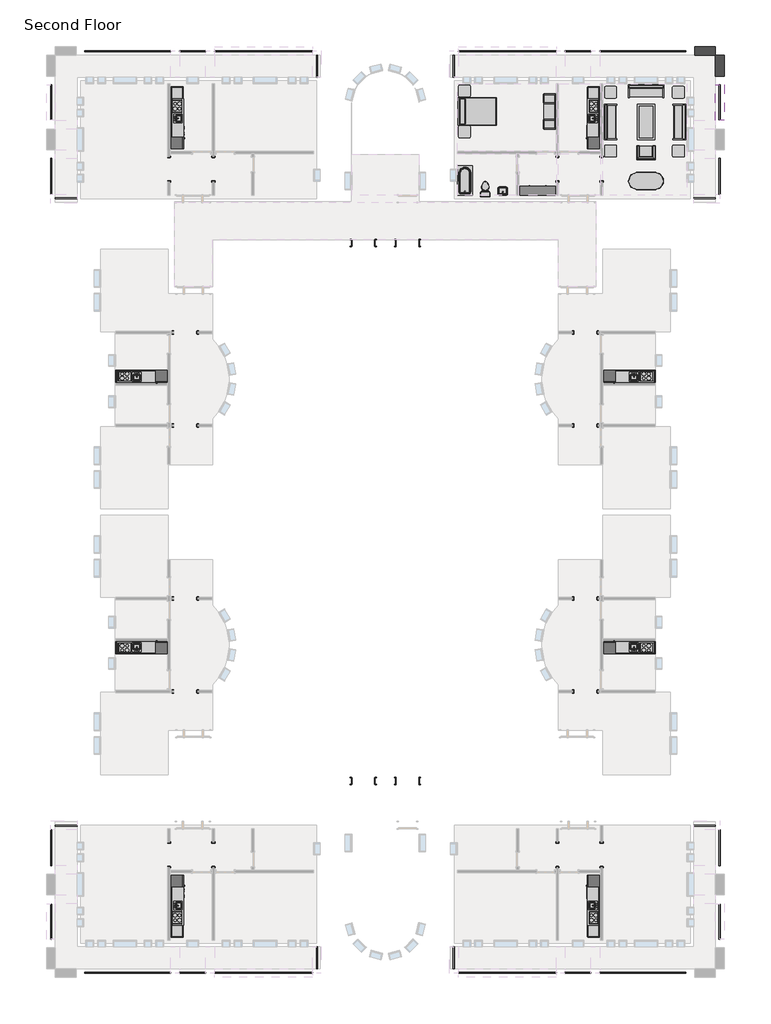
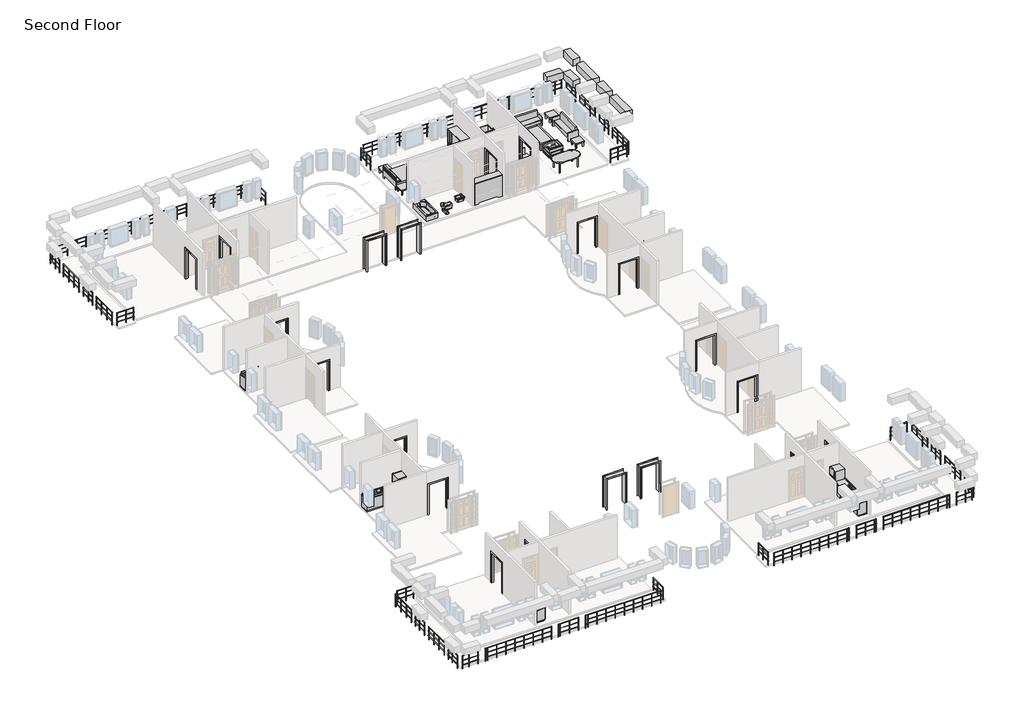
# One storey, part 5 of 5: 40 railings, 28 proxies, 15 furniture elements, 3 beams, 3 flow terminals.
"""IFC4 building model written with IfcOpenShell, lengths in millimetres."""

from ifc_helpers import new_model, si_unit, frame, origin, place, context, project, spatial, polyline, outline, extrude, faceted_brep, transform, mapped, element, save
from components import kitchenette_medium_5_9f73a4de, kitchenette_medium_5_952fb32b, proxy_64a468c4, proxy_b7eaed23, proxy_f44482cc, proxy_c3589814, proxy_d58c73d0, proxy_1659ed5c, flow_terminal_0aeb31e3, toilet_domestic_3d_toilet_domestic_3d_f7549cf7, toilet_domestic_3d_toilet_domestic_3d_183bbd19, tub_rectangular_3d_tub_rectangular_3d_5e45a89b, furniture_096e7f55, chair_corbu_chair_corbu_2764bdef, furniture_7c473f12, furniture_ddc78764, furniture_4ef38d96, furniture_cd93a443, furniture_2c34a4f9, furniture_3a588284, furniture_1befe2a2, handrail_rectangular_4972241b, handrail_rectangular_1381a444, handrail_rectangular_01eef90d, handrail_rectangular_13a1ee30, handrail_rectangular_03016c17, handrail_rectangular_3ccce273, handrail_rectangular_54a3796f, handrail_rectangular_59770213, handrail_rectangular_8efd4f22, handrail_rectangular_e9e78f14, handrail_rectangular_87f704f7, handrail_rectangular_8714f778, handrail_rectangular_c13e586d, handrail_rectangular_976a4a22, handrail_rectangular_e26642b2, handrail_rectangular_a6494b9e, handrail_rectangular_cf185419, handrail_rectangular_509b275a, handrail_rectangular_1468f00f, handrail_rectangular_0c64ad7f, handrail_rectangular_2f5b2840, handrail_rectangular_16bb1ca9, handrail_rectangular_52f2a290, handrail_rectangular_e3f0a00c, handrail_rectangular_5aa2e3ec, handrail_rectangular_7468691e, handrail_rectangular_8720fce0, handrail_rectangular_1f0af88b, handrail_rectangular_be64c713, handrail_rectangular_0f8d92d8, handrail_rectangular_bd103520, handrail_rectangular_141b720c, handrail_rectangular_5c72b83f, handrail_rectangular_79dd763a, handrail_rectangular_53114f2b, handrail_rectangular_2b0f6e2a, handrail_rectangular_dd930bd4, handrail_rectangular_f98c5335, handrail_rectangular_11d6e5c2, handrail_rectangular_5028e874

model = new_model("IFC4")

# Units and contexts
model_context = context("Model", 3, world=origin())
ifc_project = project(units=[si_unit("LENGTHUNIT", "METRE", prefix="MILLI")], contexts=[model_context])

# Site, building, storey
site = spatial("IfcSite", under=ifc_project)
building = spatial("IfcBuilding", under=site)
storey = spatial("IfcBuildingStorey", under=building, Name="Second Floor", Elevation=3048.0)

# Beams
placement = place(None, origin())
element("IfcBeam", 1, ObjectType="Concrete-Rectangular Beam : 18 x 18", at=placement, inside=storey, context=model_context, shape_type="SweptSolid", body=[
    extrude(outline(polyline([(1027.1410437, 11741.6316867), (1027.1410437, 12198.8316867), (2093.9410437, 12198.8316867), (2093.9410437, 11741.6316867), (1027.1410437, 11741.6316867)])), frame((0.0, 0.0, 4114.8), z_axis=(0.0, 0.0, 1.0), x_axis=(1.0, 0.0, 0.0)), (0.0, 0.0, 1.0), 457.2),
])
element("IfcBeam", 2, ObjectType="Concrete-Rectangular Beam : 18 x 18", at=placement, inside=storey, context=model_context, shape_type="SweptSolid", body=[
    extrude(outline(polyline([(2551.1410437, 10674.8316867), (2093.9410437, 10674.8316867), (2093.9410437, 11741.6316867), (2551.1410437, 11741.6316867), (2551.1410437, 10674.8316867)])), frame((0.0, 0.0, 4114.8), z_axis=(0.0, 0.0, 1.0), x_axis=(1.0, 0.0, 0.0)), (0.0, 0.0, 1.0), 457.2),
])
element("IfcBeam", 3, ObjectType="Concrete-Rectangular Beam : 18 x 18", at=placement, inside=storey, context=model_context, shape_type="Brep", body=[
    faceted_brep([(2093.9410437, 4578.8316867, 6096.0), (2322.5410437, 4578.8316867, 6096.0), (2551.1410437, 4578.8316867, 6096.0), (2551.1410437, 6407.6316867, 6096.0), (2093.9410437, 6407.6316867, 6096.0), (2093.9410437, 4578.8316867, 5638.8), (2093.9410437, 6407.6316867, 5638.8), (2551.1410437, 4578.8316867, 5638.8), (2322.5410437, 4578.8316867, 5638.8), (2551.1410437, 6407.6316867, 5638.8)], [[[0, 1, 2, 3, 4]], [[5, 0, 4, 6]], [[7, 8, 5, 6, 9]], [[2, 7, 9, 3]], [[2, 1, 0, 5, 8, 7]], [[4, 3, 9, 6]]]),
    faceted_brep([(2551.1410437, 11741.6316867, 6096.0), (2551.1410437, 11741.6316867, 5638.8), (2093.9410437, 11741.6316867, 5638.8), (2093.9410437, 11741.6316867, 6096.0), (2551.1410437, 10674.8316867, 6096.0), (2093.9410437, 10674.8316867, 6096.0), (2093.9410437, 10674.8316867, 5638.8), (2551.1410437, 10674.8316867, 5638.8)], [[[0, 1, 2, 3]], [[4, 5, 6, 7]], [[0, 3, 5, 4]], [[3, 2, 6, 5]], [[2, 1, 7, 6]], [[1, 0, 4, 7]]]),
    faceted_brep([(2093.9410437, 10217.6316867, 6096.0), (2551.1410437, 10217.6316867, 6096.0), (2551.1410437, 10217.6316867, 5638.8), (2093.9410437, 10217.6316867, 5638.8), (2551.1410437, 8388.8316867, 6096.0), (2093.9410437, 8388.8316867, 6096.0), (2093.9410437, 8388.8316867, 5638.8), (2551.1410437, 8388.8316867, 5638.8)], [[[0, 1, 2, 3]], [[4, 5, 6, 7]], [[1, 0, 5, 4]], [[0, 3, 6, 5]], [[3, 2, 7, 6]], [[2, 1, 4, 7]]]),
    faceted_brep([(2551.1410437, 6864.8316867, 6096.0), (2093.9410437, 6864.8316867, 6096.0), (2093.9410437, 6864.8316867, 5638.8), (2551.1410437, 6864.8316867, 5638.8), (2551.1410437, 7931.6316867, 6096.0), (2093.9410437, 7931.6316867, 6096.0), (2093.9410437, 7931.6316867, 5638.8), (2551.1410437, 7931.6316867, 5638.8)], [[[0, 1, 2, 3]], [[1, 0, 4, 5]], [[2, 1, 5, 6]], [[3, 2, 6, 7]], [[0, 3, 7, 4]], [[5, 4, 7, 6]]]),
])

# Proxies
kitchenette_medium_5_shape = kitchenette_medium_5_9f73a4de(model_context)
element("IfcBuildingElementProxy", 4, Name="Kitchenette - Medium : 5'", ObjectType="Kitchenette - Medium : 5'", at=placement, inside=storey, context=model_context, shape_type="MappedRepresentation", body=[
    mapped(kitchenette_medium_5_shape, transform((-28112.6966612, -4494.4827414, 3048.0), x_axis=(1.0, 0.0, 0.0), y_axis=(0.0, 1.0, 0.0), z_axis=(0.0, 0.0, 1.0))),
])
element("IfcBuildingElementProxy", 5, Name="Kitchenette - Medium : 5'", ObjectType="Kitchenette - Medium : 5'", at=placement, inside=storey, context=model_context, shape_type="MappedRepresentation", body=[
    mapped(kitchenette_medium_5_shape, transform((-1757.6462514, -19113.8538852, 3048.0), x_axis=(-1.0, 0.0, 0.0), y_axis=(0.0, -1.0, 0.0), z_axis=(0.0, 0.0, 1.0))),
])
kitchenette_medium_5_2_shape = kitchenette_medium_5_952fb32b(model_context)
element("IfcBuildingElementProxy", 6, Name="Kitchenette - Medium : 5'", ObjectType="Kitchenette - Medium : 5'", at=placement, inside=storey, context=model_context, shape_type="MappedRepresentation", body=[
    mapped(kitchenette_medium_5_2_shape, transform((-1757.6462514, -4494.4827414, 3048.0), x_axis=(-1.0, 0.0, 0.0), y_axis=(0.0, -1.0, 0.0), z_axis=(0.0, 0.0, 1.0))),
])
element("IfcBuildingElementProxy", 7, Name="Kitchenette - Medium : 5'", ObjectType="Kitchenette - Medium : 5'", at=placement, inside=storey, context=model_context, shape_type="MappedRepresentation", body=[
    mapped(kitchenette_medium_5_2_shape, transform((-28112.6966612, -19113.8538852, 3048.0), x_axis=(1.0, 0.0, 0.0), y_axis=(0.0, 1.0, 0.0), z_axis=(0.0, 0.0, 1.0))),
])
proxy_shape = proxy_64a468c4(model_context)
element("IfcBuildingElementProxy", 8, Name="Kitchenette - Medium : 8'6\"", ObjectType="Kitchenette - Medium : 8'6\"", at=placement, inside=storey, context=model_context, shape_type="MappedRepresentation", body=[
    mapped(proxy_shape, transform((-3887.7589563, 8837.7956433, 3048.0), x_axis=(0.0, -1.0, 0.0), y_axis=(1.0, 0.0, 0.0), z_axis=(0.0, 0.0, 1.0))),
])
element("IfcBuildingElementProxy", 9, Name="Kitchenette - Medium : 8'6\"", ObjectType="Kitchenette - Medium : 8'6\"", at=placement, inside=storey, context=model_context, shape_type="MappedRepresentation", body=[
    mapped(proxy_shape, transform((-25982.5839563, -32446.1322699, 3048.0), x_axis=(0.0, 1.0, 0.0), y_axis=(-1.0, 0.0, 0.0), z_axis=(0.0, 0.0, 1.0))),
])
proxy_2_shape = proxy_b7eaed23(model_context)
element("IfcBuildingElementProxy", 10, Name="Kitchenette - Medium : 8'6\"", ObjectType="Kitchenette - Medium : 8'6\"", at=placement, inside=storey, context=model_context, shape_type="MappedRepresentation", body=[
    mapped(proxy_2_shape, transform((-25982.5839563, 8837.7956433, 3048.0), x_axis=(0.0, -1.0, 0.0), y_axis=(1.0, 0.0, 0.0), z_axis=(0.0, 0.0, 1.0))),
])
element("IfcBuildingElementProxy", 11, Name="Kitchenette - Medium : 8'6\"", ObjectType="Kitchenette - Medium : 8'6\"", at=placement, inside=storey, context=model_context, shape_type="MappedRepresentation", body=[
    mapped(proxy_2_shape, transform((-3887.7589563, -32446.1322699, 3048.0), x_axis=(0.0, 1.0, 0.0), y_axis=(-1.0, 0.0, 0.0), z_axis=(0.0, 0.0, 1.0))),
])
proxy_3_shape = proxy_f44482cc(model_context)
element("IfcBuildingElementProxy", 12, Name="Opening-Cased : 48\" x 84\"", ObjectType="Opening-Cased : 48\" x 84\"", at=placement, inside=storey, context=model_context, shape_type="MappedRepresentation", body=[
    mapped(proxy_3_shape, transform((-3773.4589563, 5882.4203434, 3048.0), x_axis=(0.0, 1.0, 0.0), y_axis=(-1.0, 0.0, 0.0), z_axis=(0.0, 0.0, 1.0))),
])
element("IfcBuildingElementProxy", 13, Name="Opening-Cased : 48\" x 84\"", ObjectType="Opening-Cased : 48\" x 84\"", at=placement, inside=storey, context=model_context, shape_type="MappedRepresentation", body=[
    mapped(proxy_3_shape, transform((-6059.4589563, 5866.04303, 3048.0), x_axis=(0.0, -1.0, 0.0), y_axis=(1.0, 0.0, 0.0), z_axis=(0.0, 0.0, 1.0))),
])
element("IfcBuildingElementProxy", 14, Name="Opening-Cased : 48\" x 84\"", ObjectType="Opening-Cased : 48\" x 84\"", at=placement, inside=storey, context=model_context, shape_type="MappedRepresentation", body=[
    mapped(proxy_3_shape, transform((-25250.4952996, -7344.8808133, 3048.0), x_axis=(1.0, 0.0, 0.0), y_axis=(0.0, 1.0, 0.0), z_axis=(0.0, 0.0, 1.0))),
])
element("IfcBuildingElementProxy", 15, Name="Opening-Cased : 48\" x 84\"", ObjectType="Opening-Cased : 48\" x 84\"", at=placement, inside=storey, context=model_context, shape_type="MappedRepresentation", body=[
    mapped(proxy_3_shape, transform((-25266.872613, -2547.4558133, 3048.0), x_axis=(-1.0, 0.0, 0.0), y_axis=(0.0, -1.0, 0.0), z_axis=(0.0, 0.0, 1.0))),
])
element("IfcBuildingElementProxy", 16, Name="Opening-Cased : 48\" x 84\"", ObjectType="Opening-Cased : 48\" x 84\"", at=placement, inside=storey, context=model_context, shape_type="MappedRepresentation", body=[
    mapped(proxy_3_shape, transform((-4619.847613, -16263.4558133, 3048.0), x_axis=(-1.0, 0.0, 0.0), y_axis=(0.0, -1.0, 0.0), z_axis=(0.0, 0.0, 1.0))),
])
element("IfcBuildingElementProxy", 17, Name="Opening-Cased : 48\" x 84\"", ObjectType="Opening-Cased : 48\" x 84\"", at=placement, inside=storey, context=model_context, shape_type="MappedRepresentation", body=[
    mapped(proxy_3_shape, transform((-4603.4702996, -21060.8808133, 3048.0), x_axis=(1.0, 0.0, 0.0), y_axis=(0.0, 1.0, 0.0), z_axis=(0.0, 0.0, 1.0))),
])
element("IfcBuildingElementProxy", 18, Name="Opening-Cased : 48\" x 84\"", ObjectType="Opening-Cased : 48\" x 84\"", at=placement, inside=storey, context=model_context, shape_type="MappedRepresentation", body=[
    mapped(proxy_3_shape, transform((-26096.8839563, -29490.75697, 3048.0), x_axis=(0.0, -1.0, 0.0), y_axis=(1.0, 0.0, 0.0), z_axis=(0.0, 0.0, 1.0))),
])
element("IfcBuildingElementProxy", 19, Name="Opening-Cased : 48\" x 84\"", ObjectType="Opening-Cased : 48\" x 84\"", at=placement, inside=storey, context=model_context, shape_type="MappedRepresentation", body=[
    mapped(proxy_3_shape, transform((-23810.8839563, -29474.3796566, 3048.0), x_axis=(0.0, 1.0, 0.0), y_axis=(-1.0, 0.0, 0.0), z_axis=(0.0, 0.0, 1.0))),
])
proxy_4_shape = proxy_c3589814(model_context)
element("IfcBuildingElementProxy", 20, Name="Opening-Cased : 48\" x 84\"", ObjectType="Opening-Cased : 48\" x 84\"", at=placement, inside=storey, context=model_context, shape_type="MappedRepresentation", body=[
    mapped(proxy_4_shape, transform((-16086.360113, 2064.2316867, 3048.0), x_axis=(-1.0, 0.0, 0.0), y_axis=(0.0, -1.0, 0.0), z_axis=(0.0, 0.0, 1.0))),
])
element("IfcBuildingElementProxy", 21, Name="Opening-Cased : 48\" x 84\"", ObjectType="Opening-Cased : 48\" x 84\"", at=placement, inside=storey, context=model_context, shape_type="MappedRepresentation", body=[
    mapped(proxy_4_shape, transform((-13800.360113, 2064.2316867, 3048.0), x_axis=(-1.0, 0.0, 0.0), y_axis=(0.0, -1.0, 0.0), z_axis=(0.0, 0.0, 1.0))),
])
proxy_5_shape = proxy_d58c73d0(model_context)
element("IfcBuildingElementProxy", 22, Name="Opening-Cased : 48\" x 84\"", ObjectType="Opening-Cased : 48\" x 84\"", at=placement, inside=storey, context=model_context, shape_type="MappedRepresentation", body=[
    mapped(proxy_5_shape, transform((-4619.847613, -7344.8808133, 3048.0), x_axis=(-1.0, 0.0, 0.0), y_axis=(0.0, -1.0, 0.0), z_axis=(0.0, 0.0, 1.0))),
])
element("IfcBuildingElementProxy", 23, Name="Opening-Cased : 48\" x 84\"", ObjectType="Opening-Cased : 48\" x 84\"", at=placement, inside=storey, context=model_context, shape_type="MappedRepresentation", body=[
    mapped(proxy_5_shape, transform((-4603.4702996, -2547.4558133, 3048.0), x_axis=(1.0, 0.0, 0.0), y_axis=(0.0, 1.0, 0.0), z_axis=(0.0, 0.0, 1.0))),
])
element("IfcBuildingElementProxy", 24, Name="Opening-Cased : 48\" x 84\"", ObjectType="Opening-Cased : 48\" x 84\"", at=placement, inside=storey, context=model_context, shape_type="MappedRepresentation", body=[
    mapped(proxy_5_shape, transform((-26096.8839563, 5882.4203434, 3048.0), x_axis=(0.0, 1.0, 0.0), y_axis=(-1.0, 0.0, 0.0), z_axis=(0.0, 0.0, 1.0))),
])
element("IfcBuildingElementProxy", 25, Name="Opening-Cased : 48\" x 84\"", ObjectType="Opening-Cased : 48\" x 84\"", at=placement, inside=storey, context=model_context, shape_type="MappedRepresentation", body=[
    mapped(proxy_5_shape, transform((-23810.8839563, 5866.04303, 3048.0), x_axis=(0.0, -1.0, 0.0), y_axis=(1.0, 0.0, 0.0), z_axis=(0.0, 0.0, 1.0))),
])
element("IfcBuildingElementProxy", 26, Name="Opening-Cased : 48\" x 84\"", ObjectType="Opening-Cased : 48\" x 84\"", at=placement, inside=storey, context=model_context, shape_type="MappedRepresentation", body=[
    mapped(proxy_5_shape, transform((-3773.4589563, -29490.75697, 3048.0), x_axis=(0.0, -1.0, 0.0), y_axis=(1.0, 0.0, 0.0), z_axis=(0.0, 0.0, 1.0))),
])
element("IfcBuildingElementProxy", 27, Name="Opening-Cased : 48\" x 84\"", ObjectType="Opening-Cased : 48\" x 84\"", at=placement, inside=storey, context=model_context, shape_type="MappedRepresentation", body=[
    mapped(proxy_5_shape, transform((-6059.4589563, -29474.3796566, 3048.0), x_axis=(0.0, 1.0, 0.0), y_axis=(-1.0, 0.0, 0.0), z_axis=(0.0, 0.0, 1.0))),
])
element("IfcBuildingElementProxy", 28, Name="Opening-Cased : 48\" x 84\"", ObjectType="Opening-Cased : 48\" x 84\"", at=placement, inside=storey, context=model_context, shape_type="MappedRepresentation", body=[
    mapped(proxy_5_shape, transform((-25250.4952996, -16263.4558133, 3048.0), x_axis=(1.0, 0.0, 0.0), y_axis=(0.0, 1.0, 0.0), z_axis=(0.0, 0.0, 1.0))),
])
element("IfcBuildingElementProxy", 29, Name="Opening-Cased : 48\" x 84\"", ObjectType="Opening-Cased : 48\" x 84\"", at=placement, inside=storey, context=model_context, shape_type="MappedRepresentation", body=[
    mapped(proxy_5_shape, transform((-25266.872613, -21060.8808133, 3048.0), x_axis=(-1.0, 0.0, 0.0), y_axis=(0.0, -1.0, 0.0), z_axis=(0.0, 0.0, 1.0))),
])
proxy_6_shape = proxy_1659ed5c(model_context)
element("IfcBuildingElementProxy", 30, Name="Opening-Cased : 48\" x 84\"", ObjectType="Opening-Cased : 48\" x 84\"", at=placement, inside=storey, context=model_context, shape_type="MappedRepresentation", body=[
    mapped(proxy_6_shape, transform((-16086.360113, -25672.5683133, 3048.0), x_axis=(-1.0, 0.0, 0.0), y_axis=(0.0, -1.0, 0.0), z_axis=(0.0, 0.0, 1.0))),
])
element("IfcBuildingElementProxy", 31, Name="Opening-Cased : 48\" x 84\"", ObjectType="Opening-Cased : 48\" x 84\"", at=placement, inside=storey, context=model_context, shape_type="MappedRepresentation", body=[
    mapped(proxy_6_shape, transform((-13800.360113, -25672.5683133, 3048.0), x_axis=(-1.0, 0.0, 0.0), y_axis=(0.0, -1.0, 0.0), z_axis=(0.0, 0.0, 1.0))),
])

# Flow terminals
flow_terminal_shape = flow_terminal_0aeb31e3(model_context)
element("IfcFlowTerminal", 32, ObjectType="Sink Vanity-Square : 24\" x 19\"", at=placement, inside=storey, context=model_context, shape_type="MappedRepresentation", body=[
    mapped(flow_terminal_shape, transform((-8864.7572157, 4706.5895878, 3048.0), x_axis=(-1.0, 0.0, 0.0), y_axis=(0.0, -1.0, 0.0), z_axis=(0.0, 0.0, 1.0))),
])
toilet_domestic_3d_toilet_domestic_3d_shape = toilet_domestic_3d_toilet_domestic_3d_f7549cf7(model_context)
toilet_domestic_3d_toilet_domestic_3d_2_shape = toilet_domestic_3d_toilet_domestic_3d_183bbd19(model_context)
element("IfcFlowTerminal", 33, ObjectType="Toilet-Domestic-3D : Toilet-Domestic-3D", at=placement, inside=storey, context=model_context, shape_type="MappedRepresentation", body=[
    mapped(toilet_domestic_3d_toilet_domestic_3d_shape, transform((-9782.1466587, 4940.866411, 3048.0), x_axis=(-1.0000000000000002, 0.0, 0.0), y_axis=(0.0, -1.0000000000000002, 0.0), z_axis=(0.0, 0.0, 1.0))),
    mapped(toilet_domestic_3d_toilet_domestic_3d_2_shape, transform((-9782.1466587, 4940.866411, 3048.0), x_axis=(-1.0000000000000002, 0.0, 0.0), y_axis=(0.0, -1.0000000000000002, 0.0), z_axis=(0.0, 0.0, 1.0))),
])
tub_rectangular_3d_tub_rectangular_3d_shape = tub_rectangular_3d_tub_rectangular_3d_5e45a89b(model_context)
element("IfcFlowTerminal", 34, ObjectType="Tub-Rectangular-3D : Tub-Rectangular-3D", at=placement, inside=storey, context=model_context, shape_type="MappedRepresentation", body=[
    mapped(tub_rectangular_3d_tub_rectangular_3d_shape, transform((-11393.4589563, 5637.0471554, 3048.0), x_axis=(0.0, 1.0, 0.0), y_axis=(-1.0, 0.0, 0.0), z_axis=(0.0, 0.0, 1.0))),
])

# Furniture
furniture_shape = furniture_096e7f55(model_context)
element("IfcFurniture", 35, ObjectType="Bed-Shaker : Double 56\" x 78\"", at=placement, inside=storey, context=model_context, shape_type="MappedRepresentation", body=[
    mapped(furniture_shape, transform((-11183.1982802, 8871.8755561, 3048.0), x_axis=(0.0, 1.0, 0.0), y_axis=(-1.0, 0.0, 0.0), z_axis=(0.0, 0.0, 1.0))),
])
chair_corbu_chair_corbu_shape = chair_corbu_chair_corbu_2764bdef(model_context)
element("IfcFurniture", 36, ObjectType="Chair-Corbu : Chair-Corbu", at=placement, inside=storey, context=model_context, shape_type="MappedRepresentation", body=[
    mapped(chair_corbu_chair_corbu_shape, transform((-914.0851858, 7193.4962359, 3048.0), x_axis=(-1.0, 0.0, 0.0), y_axis=(0.0, -1.0, 0.0), z_axis=(0.0, 0.0, 1.0))),
])
furniture_2_shape = furniture_7c473f12(model_context)
element("IfcFurniture", 37, ObjectType="Dresser : 72\" x 60\" x 18\"", at=placement, inside=storey, context=model_context, shape_type="MappedRepresentation", body=[
    mapped(furniture_2_shape, transform((-7344.6522161, 4404.5812326, 3048.0), x_axis=(-1.0, 0.0, 0.0), y_axis=(0.0, -1.0, 0.0), z_axis=(0.0, 0.0, 1.0))),
])
furniture_3_shape = furniture_ddc78764(model_context)
element("IfcFurniture", 38, ObjectType="Entertainment Center : 72\" x 72\" x 24\"", at=placement, inside=storey, context=model_context, shape_type="MappedRepresentation", body=[
    mapped(furniture_3_shape, transform((-6059.4589563, 8852.8255561, 3048.0), x_axis=(0.0, -1.0, 0.0), y_axis=(1.0, 0.0, 0.0), z_axis=(0.0, 0.0, 1.0))),
])
furniture_4_shape = furniture_4ef38d96(model_context)
element("IfcFurniture", 39, ObjectType="Sofa : 72\"", at=placement, inside=storey, context=model_context, shape_type="MappedRepresentation", body=[
    mapped(furniture_4_shape, transform((-1557.8294481, 9741.2775883, 3048.0), x_axis=(1.0, 0.0, 0.0), y_axis=(0.0, 1.0, 0.0), z_axis=(0.0, 0.0, 1.0))),
])
element("IfcFurniture", 40, ObjectType="Sofa : 72\"", at=placement, inside=storey, context=model_context, shape_type="MappedRepresentation", body=[
    mapped(furniture_4_shape, transform((93.5869453, 8383.0021785, 3048.0), x_axis=(0.0, -1.0, 0.0), y_axis=(1.0, 0.0, 0.0), z_axis=(0.0, 0.0, 1.0))),
])
element("IfcFurniture", 41, ObjectType="Sofa : 72\"", at=placement, inside=storey, context=model_context, shape_type="MappedRepresentation", body=[
    mapped(furniture_4_shape, transform((-3170.104858, 8242.2611949, 3048.0), x_axis=(0.0, 1.0, 0.0), y_axis=(-1.0, 0.0, 0.0), z_axis=(0.0, 0.0, 1.0))),
])
furniture_5_shape = furniture_cd93a443(model_context)
element("IfcFurniture", 42, ObjectType="Table-Coffee : 36\" x 72\" x 18\"", at=placement, inside=storey, context=model_context, shape_type="MappedRepresentation", body=[
    mapped(furniture_5_shape, transform((-1582.6700341, 8330.8974534, 3048.0), x_axis=(0.0, -1.0, 0.0), y_axis=(1.0, 0.0, 0.0), z_axis=(0.0, 0.0, 1.0))),
])
furniture_6_shape = furniture_2c34a4f9(model_context)
element("IfcFurniture", 43, ObjectType="Table-Dining Oval : 36\" x 72\"", at=placement, inside=storey, context=model_context, shape_type="MappedRepresentation", body=[
    mapped(furniture_6_shape, transform((-1085.6392842, 5622.7300473, 3048.0), x_axis=(1.0, 0.0, 0.0), y_axis=(0.0, 1.0, 0.0), z_axis=(0.0, 0.0, 1.0))),
])
furniture_7_shape = furniture_3a588284(model_context)
element("IfcFurniture", 44, ObjectType="Table-End : 24\" x 24\"", at=placement, inside=storey, context=model_context, shape_type="MappedRepresentation", body=[
    mapped(furniture_7_shape, transform((-119.5925866, 9684.2316867, 3048.0), x_axis=(1.0, 0.0, 0.0), y_axis=(0.0, 1.0, 0.0), z_axis=(0.0, 0.0, 1.0))),
])
element("IfcFurniture", 45, ObjectType="Table-End : 24\" x 24\"", at=placement, inside=storey, context=model_context, shape_type="MappedRepresentation", body=[
    mapped(furniture_7_shape, transform((-3624.7925866, 9684.2316867, 3048.0), x_axis=(1.0, 0.0, 0.0), y_axis=(0.0, 1.0, 0.0), z_axis=(0.0, 0.0, 1.0))),
])
element("IfcFurniture", 46, ObjectType="Table-End : 24\" x 24\"", at=placement, inside=storey, context=model_context, shape_type="MappedRepresentation", body=[
    mapped(furniture_7_shape, transform((-3624.7925866, 6660.0441867, 3048.0), x_axis=(1.0, 0.0, 0.0), y_axis=(0.0, 1.0, 0.0), z_axis=(0.0, 0.0, 1.0))),
])
element("IfcFurniture", 47, ObjectType="Table-End : 24\" x 24\"", at=placement, inside=storey, context=model_context, shape_type="MappedRepresentation", body=[
    mapped(furniture_7_shape, transform((-119.5925866, 6660.0441867, 3048.0), x_axis=(1.0, 0.0, 0.0), y_axis=(0.0, 1.0, 0.0), z_axis=(0.0, 0.0, 1.0))),
])
element("IfcFurniture", 48, ObjectType="Table-End : 24\" x 24\"", at=placement, inside=storey, context=model_context, shape_type="MappedRepresentation", body=[
    mapped(furniture_7_shape, transform((-11164.2346356, 9756.0737357, 3048.0), x_axis=(1.0, 0.0, 0.0), y_axis=(0.0, 1.0, 0.0), z_axis=(0.0, 0.0, 1.0))),
])
furniture_8_shape = furniture_1befe2a2(model_context)
element("IfcFurniture", 49, ObjectType="Table-End : 24\" x 24\"", at=placement, inside=storey, context=model_context, shape_type="MappedRepresentation", body=[
    mapped(furniture_8_shape, transform((-11164.2346356, 7949.5773764, 3048.0), x_axis=(1.0, 0.0, 0.0), y_axis=(0.0, 1.0, 0.0), z_axis=(0.0, 0.0, 1.0))),
])

# Railings
handrail_rectangular_shape = handrail_rectangular_4972241b(model_context)
element("IfcRailing", 50, ObjectType="Handrail - Rectangular", at=placement, inside=storey, context=model_context, shape_type="MappedRepresentation", body=[
    mapped(handrail_rectangular_shape, transform((0.0, 0.0, 0.0), x_axis=(1.0, 0.0, 0.0), y_axis=(0.0, 1.0, 0.0), z_axis=(0.0, 0.0, 1.0))),
])
handrail_rectangular_2_shape = handrail_rectangular_1381a444(model_context)
element("IfcRailing", 51, ObjectType="Handrail - Rectangular", at=placement, inside=storey, context=model_context, shape_type="MappedRepresentation", body=[
    mapped(handrail_rectangular_2_shape, transform((0.0, 0.0, 0.0), x_axis=(1.0, 0.0, 0.0), y_axis=(0.0, 1.0, 0.0), z_axis=(0.0, 0.0, 1.0))),
])
handrail_rectangular_3_shape = handrail_rectangular_01eef90d(model_context)
element("IfcRailing", 52, ObjectType="Handrail - Rectangular", at=placement, inside=storey, context=model_context, shape_type="MappedRepresentation", body=[
    mapped(handrail_rectangular_3_shape, transform((0.0, 0.0, 0.0), x_axis=(1.0, 0.0, 0.0), y_axis=(0.0, 1.0, 0.0), z_axis=(0.0, 0.0, 1.0))),
])
handrail_rectangular_4_shape = handrail_rectangular_13a1ee30(model_context)
element("IfcRailing", 53, ObjectType="Handrail - Rectangular", at=placement, inside=storey, context=model_context, shape_type="MappedRepresentation", body=[
    mapped(handrail_rectangular_4_shape, transform((0.0, 0.0, 0.0), x_axis=(1.0, 0.0, 0.0), y_axis=(0.0, 1.0, 0.0), z_axis=(0.0, 0.0, 1.0))),
])
handrail_rectangular_5_shape = handrail_rectangular_03016c17(model_context)
element("IfcRailing", 54, ObjectType="Handrail - Rectangular", at=placement, inside=storey, context=model_context, shape_type="MappedRepresentation", body=[
    mapped(handrail_rectangular_5_shape, transform((0.0, 0.0, 0.0), x_axis=(1.0, 0.0, 0.0), y_axis=(0.0, 1.0, 0.0), z_axis=(0.0, 0.0, 1.0))),
])
handrail_rectangular_6_shape = handrail_rectangular_3ccce273(model_context)
element("IfcRailing", 55, ObjectType="Handrail - Rectangular", at=placement, inside=storey, context=model_context, shape_type="MappedRepresentation", body=[
    mapped(handrail_rectangular_6_shape, transform((0.0, 0.0, 0.0), x_axis=(1.0, 0.0, 0.0), y_axis=(0.0, 1.0, 0.0), z_axis=(0.0, 0.0, 1.0))),
])
handrail_rectangular_7_shape = handrail_rectangular_54a3796f(model_context)
element("IfcRailing", 56, ObjectType="Handrail - Rectangular", at=placement, inside=storey, context=model_context, shape_type="MappedRepresentation", body=[
    mapped(handrail_rectangular_7_shape, transform((0.0, 0.0, 0.0), x_axis=(1.0, 0.0, 0.0), y_axis=(0.0, 1.0, 0.0), z_axis=(0.0, 0.0, 1.0))),
])
handrail_rectangular_8_shape = handrail_rectangular_59770213(model_context)
element("IfcRailing", 57, ObjectType="Handrail - Rectangular", at=placement, inside=storey, context=model_context, shape_type="MappedRepresentation", body=[
    mapped(handrail_rectangular_8_shape, transform((0.0, 0.0, 0.0), x_axis=(1.0, 0.0, 0.0), y_axis=(0.0, 1.0, 0.0), z_axis=(0.0, 0.0, 1.0))),
])
handrail_rectangular_9_shape = handrail_rectangular_8efd4f22(model_context)
element("IfcRailing", 58, ObjectType="Handrail - Rectangular", at=placement, inside=storey, context=model_context, shape_type="MappedRepresentation", body=[
    mapped(handrail_rectangular_9_shape, transform((0.0, 0.0, 0.0), x_axis=(1.0, 0.0, 0.0), y_axis=(0.0, 1.0, 0.0), z_axis=(0.0, 0.0, 1.0))),
])
handrail_rectangular_10_shape = handrail_rectangular_e9e78f14(model_context)
element("IfcRailing", 59, ObjectType="Handrail - Rectangular", at=placement, inside=storey, context=model_context, shape_type="MappedRepresentation", body=[
    mapped(handrail_rectangular_10_shape, transform((0.0, 0.0, 0.0), x_axis=(1.0, 0.0, 0.0), y_axis=(0.0, 1.0, 0.0), z_axis=(0.0, 0.0, 1.0))),
])
handrail_rectangular_11_shape = handrail_rectangular_87f704f7(model_context)
element("IfcRailing", 60, ObjectType="Handrail - Rectangular", at=placement, inside=storey, context=model_context, shape_type="MappedRepresentation", body=[
    mapped(handrail_rectangular_11_shape, transform((0.0, 0.0, 0.0), x_axis=(1.0, 0.0, 0.0), y_axis=(0.0, 1.0, 0.0), z_axis=(0.0, 0.0, 1.0))),
])
handrail_rectangular_12_shape = handrail_rectangular_8714f778(model_context)
element("IfcRailing", 61, ObjectType="Handrail - Rectangular", at=placement, inside=storey, context=model_context, shape_type="MappedRepresentation", body=[
    mapped(handrail_rectangular_12_shape, transform((0.0, 0.0, 0.0), x_axis=(1.0, 0.0, 0.0), y_axis=(0.0, 1.0, 0.0), z_axis=(0.0, 0.0, 1.0))),
])
handrail_rectangular_13_shape = handrail_rectangular_c13e586d(model_context)
element("IfcRailing", 62, ObjectType="Handrail - Rectangular", at=placement, inside=storey, context=model_context, shape_type="MappedRepresentation", body=[
    mapped(handrail_rectangular_13_shape, transform((0.0, 0.0, 0.0), x_axis=(1.0, 0.0, 0.0), y_axis=(0.0, 1.0, 0.0), z_axis=(0.0, 0.0, 1.0))),
])
handrail_rectangular_14_shape = handrail_rectangular_976a4a22(model_context)
element("IfcRailing", 63, ObjectType="Handrail - Rectangular", at=placement, inside=storey, context=model_context, shape_type="MappedRepresentation", body=[
    mapped(handrail_rectangular_14_shape, transform((0.0, 0.0, 0.0), x_axis=(1.0, 0.0, 0.0), y_axis=(0.0, 1.0, 0.0), z_axis=(0.0, 0.0, 1.0))),
])
handrail_rectangular_15_shape = handrail_rectangular_e26642b2(model_context)
element("IfcRailing", 64, ObjectType="Handrail - Rectangular", at=placement, inside=storey, context=model_context, shape_type="MappedRepresentation", body=[
    mapped(handrail_rectangular_15_shape, transform((0.0, 0.0, 0.0), x_axis=(1.0, 0.0, 0.0), y_axis=(0.0, 1.0, 0.0), z_axis=(0.0, 0.0, 1.0))),
])
handrail_rectangular_16_shape = handrail_rectangular_a6494b9e(model_context)
element("IfcRailing", 65, ObjectType="Handrail - Rectangular", at=placement, inside=storey, context=model_context, shape_type="MappedRepresentation", body=[
    mapped(handrail_rectangular_16_shape, transform((0.0, 0.0, 0.0), x_axis=(1.0, 0.0, 0.0), y_axis=(0.0, 1.0, 0.0), z_axis=(0.0, 0.0, 1.0))),
])
handrail_rectangular_17_shape = handrail_rectangular_cf185419(model_context)
element("IfcRailing", 66, ObjectType="Handrail - Rectangular", at=placement, inside=storey, context=model_context, shape_type="MappedRepresentation", body=[
    mapped(handrail_rectangular_17_shape, transform((0.0, 0.0, 0.0), x_axis=(1.0, 0.0, 0.0), y_axis=(0.0, 1.0, 0.0), z_axis=(0.0, 0.0, 1.0))),
])
handrail_rectangular_18_shape = handrail_rectangular_509b275a(model_context)
element("IfcRailing", 67, ObjectType="Handrail - Rectangular", at=placement, inside=storey, context=model_context, shape_type="MappedRepresentation", body=[
    mapped(handrail_rectangular_18_shape, transform((0.0, 0.0, 0.0), x_axis=(1.0, 0.0, 0.0), y_axis=(0.0, 1.0, 0.0), z_axis=(0.0, 0.0, 1.0))),
])
handrail_rectangular_19_shape = handrail_rectangular_1468f00f(model_context)
element("IfcRailing", 68, ObjectType="Handrail - Rectangular", at=placement, inside=storey, context=model_context, shape_type="MappedRepresentation", body=[
    mapped(handrail_rectangular_19_shape, transform((0.0, 0.0, 0.0), x_axis=(1.0, 0.0, 0.0), y_axis=(0.0, 1.0, 0.0), z_axis=(0.0, 0.0, 1.0))),
])
handrail_rectangular_20_shape = handrail_rectangular_0c64ad7f(model_context)
element("IfcRailing", 69, ObjectType="Handrail - Rectangular", at=placement, inside=storey, context=model_context, shape_type="MappedRepresentation", body=[
    mapped(handrail_rectangular_20_shape, transform((0.0, 0.0, 0.0), x_axis=(1.0, 0.0, 0.0), y_axis=(0.0, 1.0, 0.0), z_axis=(0.0, 0.0, 1.0))),
])
handrail_rectangular_21_shape = handrail_rectangular_2f5b2840(model_context)
element("IfcRailing", 70, ObjectType="Handrail - Rectangular", at=placement, inside=storey, context=model_context, shape_type="MappedRepresentation", body=[
    mapped(handrail_rectangular_21_shape, transform((0.0, 0.0, 0.0), x_axis=(1.0, 0.0, 0.0), y_axis=(0.0, 1.0, 0.0), z_axis=(0.0, 0.0, 1.0))),
])
handrail_rectangular_22_shape = handrail_rectangular_16bb1ca9(model_context)
element("IfcRailing", 71, ObjectType="Handrail - Rectangular", at=placement, inside=storey, context=model_context, shape_type="MappedRepresentation", body=[
    mapped(handrail_rectangular_22_shape, transform((0.0, 0.0, 0.0), x_axis=(1.0, 0.0, 0.0), y_axis=(0.0, 1.0, 0.0), z_axis=(0.0, 0.0, 1.0))),
])
handrail_rectangular_23_shape = handrail_rectangular_52f2a290(model_context)
element("IfcRailing", 72, ObjectType="Handrail - Rectangular", at=placement, inside=storey, context=model_context, shape_type="MappedRepresentation", body=[
    mapped(handrail_rectangular_23_shape, transform((0.0, 0.0, 0.0), x_axis=(1.0, 0.0, 0.0), y_axis=(0.0, 1.0, 0.0), z_axis=(0.0, 0.0, 1.0))),
])
handrail_rectangular_24_shape = handrail_rectangular_e3f0a00c(model_context)
element("IfcRailing", 73, ObjectType="Handrail - Rectangular", at=placement, inside=storey, context=model_context, shape_type="MappedRepresentation", body=[
    mapped(handrail_rectangular_24_shape, transform((0.0, 0.0, 0.0), x_axis=(1.0, 0.0, 0.0), y_axis=(0.0, 1.0, 0.0), z_axis=(0.0, 0.0, 1.0))),
])
handrail_rectangular_25_shape = handrail_rectangular_5aa2e3ec(model_context)
element("IfcRailing", 74, ObjectType="Handrail - Rectangular", at=placement, inside=storey, context=model_context, shape_type="MappedRepresentation", body=[
    mapped(handrail_rectangular_25_shape, transform((0.0, 0.0, 0.0), x_axis=(1.0, 0.0, 0.0), y_axis=(0.0, 1.0, 0.0), z_axis=(0.0, 0.0, 1.0))),
])
handrail_rectangular_26_shape = handrail_rectangular_7468691e(model_context)
element("IfcRailing", 75, ObjectType="Handrail - Rectangular", at=placement, inside=storey, context=model_context, shape_type="MappedRepresentation", body=[
    mapped(handrail_rectangular_26_shape, transform((0.0, 0.0, 0.0), x_axis=(1.0, 0.0, 0.0), y_axis=(0.0, 1.0, 0.0), z_axis=(0.0, 0.0, 1.0))),
])
handrail_rectangular_27_shape = handrail_rectangular_8720fce0(model_context)
element("IfcRailing", 76, ObjectType="Handrail - Rectangular", at=placement, inside=storey, context=model_context, shape_type="MappedRepresentation", body=[
    mapped(handrail_rectangular_27_shape, transform((0.0, 0.0, 0.0), x_axis=(1.0, 0.0, 0.0), y_axis=(0.0, 1.0, 0.0), z_axis=(0.0, 0.0, 1.0))),
])
handrail_rectangular_28_shape = handrail_rectangular_1f0af88b(model_context)
element("IfcRailing", 77, ObjectType="Handrail - Rectangular", at=placement, inside=storey, context=model_context, shape_type="MappedRepresentation", body=[
    mapped(handrail_rectangular_28_shape, transform((0.0, 0.0, 0.0), x_axis=(1.0, 0.0, 0.0), y_axis=(0.0, 1.0, 0.0), z_axis=(0.0, 0.0, 1.0))),
])
handrail_rectangular_29_shape = handrail_rectangular_be64c713(model_context)
element("IfcRailing", 78, ObjectType="Handrail - Rectangular", at=placement, inside=storey, context=model_context, shape_type="MappedRepresentation", body=[
    mapped(handrail_rectangular_29_shape, transform((0.0, 0.0, 0.0), x_axis=(1.0, 0.0, 0.0), y_axis=(0.0, 1.0, 0.0), z_axis=(0.0, 0.0, 1.0))),
])
handrail_rectangular_30_shape = handrail_rectangular_0f8d92d8(model_context)
element("IfcRailing", 79, ObjectType="Handrail - Rectangular", at=placement, inside=storey, context=model_context, shape_type="MappedRepresentation", body=[
    mapped(handrail_rectangular_30_shape, transform((0.0, 0.0, 0.0), x_axis=(1.0, 0.0, 0.0), y_axis=(0.0, 1.0, 0.0), z_axis=(0.0, 0.0, 1.0))),
])
handrail_rectangular_31_shape = handrail_rectangular_bd103520(model_context)
element("IfcRailing", 80, ObjectType="Handrail - Rectangular", at=placement, inside=storey, context=model_context, shape_type="MappedRepresentation", body=[
    mapped(handrail_rectangular_31_shape, transform((0.0, 0.0, 0.0), x_axis=(1.0, 0.0, 0.0), y_axis=(0.0, 1.0, 0.0), z_axis=(0.0, 0.0, 1.0))),
])
handrail_rectangular_32_shape = handrail_rectangular_141b720c(model_context)
element("IfcRailing", 81, ObjectType="Handrail - Rectangular", at=placement, inside=storey, context=model_context, shape_type="MappedRepresentation", body=[
    mapped(handrail_rectangular_32_shape, transform((0.0, 0.0, 0.0), x_axis=(1.0, 0.0, 0.0), y_axis=(0.0, 1.0, 0.0), z_axis=(0.0, 0.0, 1.0))),
])
handrail_rectangular_33_shape = handrail_rectangular_5c72b83f(model_context)
element("IfcRailing", 82, ObjectType="Handrail - Rectangular", at=placement, inside=storey, context=model_context, shape_type="MappedRepresentation", body=[
    mapped(handrail_rectangular_33_shape, transform((0.0, 0.0, 0.0), x_axis=(1.0, 0.0, 0.0), y_axis=(0.0, 1.0, 0.0), z_axis=(0.0, 0.0, 1.0))),
])
handrail_rectangular_34_shape = handrail_rectangular_79dd763a(model_context)
element("IfcRailing", 83, ObjectType="Handrail - Rectangular", at=placement, inside=storey, context=model_context, shape_type="MappedRepresentation", body=[
    mapped(handrail_rectangular_34_shape, transform((0.0, 0.0, 0.0), x_axis=(1.0, 0.0, 0.0), y_axis=(0.0, 1.0, 0.0), z_axis=(0.0, 0.0, 1.0))),
])
handrail_rectangular_35_shape = handrail_rectangular_53114f2b(model_context)
element("IfcRailing", 84, ObjectType="Handrail - Rectangular", at=placement, inside=storey, context=model_context, shape_type="MappedRepresentation", body=[
    mapped(handrail_rectangular_35_shape, transform((0.0, 0.0, 0.0), x_axis=(1.0, 0.0, 0.0), y_axis=(0.0, 1.0, 0.0), z_axis=(0.0, 0.0, 1.0))),
])
handrail_rectangular_36_shape = handrail_rectangular_2b0f6e2a(model_context)
element("IfcRailing", 85, ObjectType="Handrail - Rectangular", at=placement, inside=storey, context=model_context, shape_type="MappedRepresentation", body=[
    mapped(handrail_rectangular_36_shape, transform((0.0, 0.0, 0.0), x_axis=(1.0, 0.0, 0.0), y_axis=(0.0, 1.0, 0.0), z_axis=(0.0, 0.0, 1.0))),
])
handrail_rectangular_37_shape = handrail_rectangular_dd930bd4(model_context)
element("IfcRailing", 86, ObjectType="Handrail - Rectangular", at=placement, inside=storey, context=model_context, shape_type="MappedRepresentation", body=[
    mapped(handrail_rectangular_37_shape, transform((0.0, 0.0, 0.0), x_axis=(1.0, 0.0, 0.0), y_axis=(0.0, 1.0, 0.0), z_axis=(0.0, 0.0, 1.0))),
])
handrail_rectangular_38_shape = handrail_rectangular_f98c5335(model_context)
element("IfcRailing", 87, ObjectType="Handrail - Rectangular", at=placement, inside=storey, context=model_context, shape_type="MappedRepresentation", body=[
    mapped(handrail_rectangular_38_shape, transform((0.0, 0.0, 0.0), x_axis=(1.0, 0.0, 0.0), y_axis=(0.0, 1.0, 0.0), z_axis=(0.0, 0.0, 1.0))),
])
handrail_rectangular_39_shape = handrail_rectangular_11d6e5c2(model_context)
element("IfcRailing", 88, ObjectType="Handrail - Rectangular", at=placement, inside=storey, context=model_context, shape_type="MappedRepresentation", body=[
    mapped(handrail_rectangular_39_shape, transform((0.0, 0.0, 0.0), x_axis=(1.0, 0.0, 0.0), y_axis=(0.0, 1.0, 0.0), z_axis=(0.0, 0.0, 1.0))),
])
handrail_rectangular_40_shape = handrail_rectangular_5028e874(model_context)
element("IfcRailing", 89, ObjectType="Handrail - Rectangular", at=placement, inside=storey, context=model_context, shape_type="MappedRepresentation", body=[
    mapped(handrail_rectangular_40_shape, transform((0.0, 0.0, 0.0), x_axis=(1.0, 0.0, 0.0), y_axis=(0.0, 1.0, 0.0), z_axis=(0.0, 0.0, 1.0))),
])

save(model, "model.ifc")
